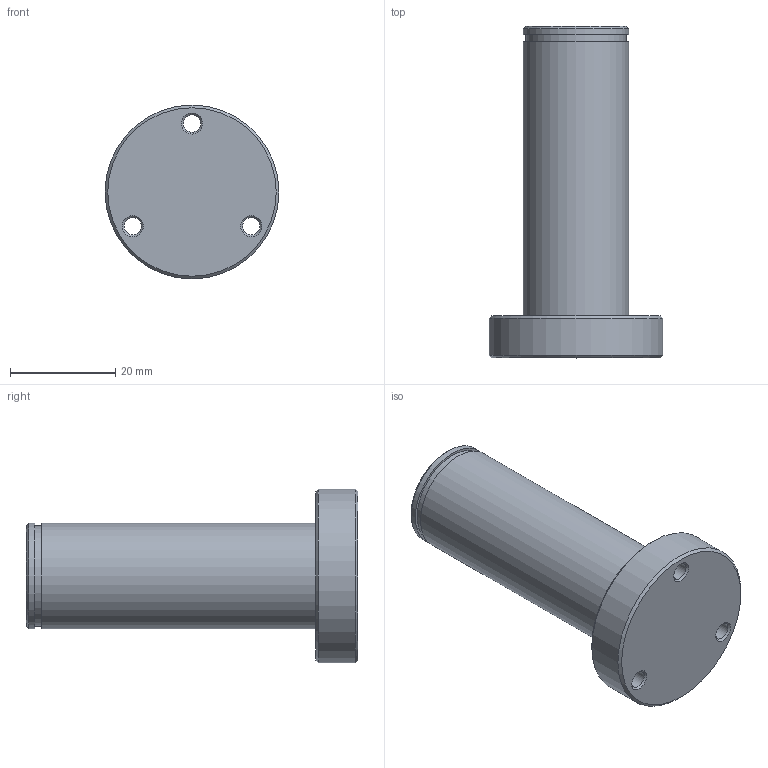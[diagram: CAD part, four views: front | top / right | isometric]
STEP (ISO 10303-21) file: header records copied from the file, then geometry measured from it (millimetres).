
FILE_DESCRIPTION(/* description */ (''),/* implementation_level */ '2;1');
FILE_NAME(/* name */ 'SYSTEM_SUPPORT_04.stp',/* time_stamp */ '2017-12-06T14:25:44+01:00',/* author */ (''),/* organization */ (''),/* preprocessor_version */ 'ST-DEVELOPER v16',/* originating_system */ 'SIEMENS PLM Software NX 10.0',/* authorisation */ '');
FILE_SCHEMA (('AP203_CONFIGURATION_CONTROLLED_3D_DESIGN_OF_MECHANICAL_PARTS_AND_ASSEMBLIES_MIM_LF { 1 0 10303 403 2 1 2}'));
Length unit declared in the file: millimetre
Products named in the file (1): turc1DB80072j4kr
Bounding box: 33 x 63 x 33 mm (x, y, z)
Volume: 23835.5 mm3; surface area: 6158.2 mm2
Topology: 1 solids, 1 shells, 21 faces, 49 edges, 33 vertices
Faces by surface type: cone 9, cylinder 7, plane 5
Full cylindrical faces by diameter (mm): 3.3 x3, 19 x1, 20 x2, 33 x1
Entity records: 581 total; most frequent: DIRECTION 102, CARTESIAN_POINT 74, AXIS2_PLACEMENT_3D 51, EDGE_LOOP 46, ORIENTED_EDGE 46, FACE_BOUND 45, CIRCLE 29, VERTEX_POINT 23
